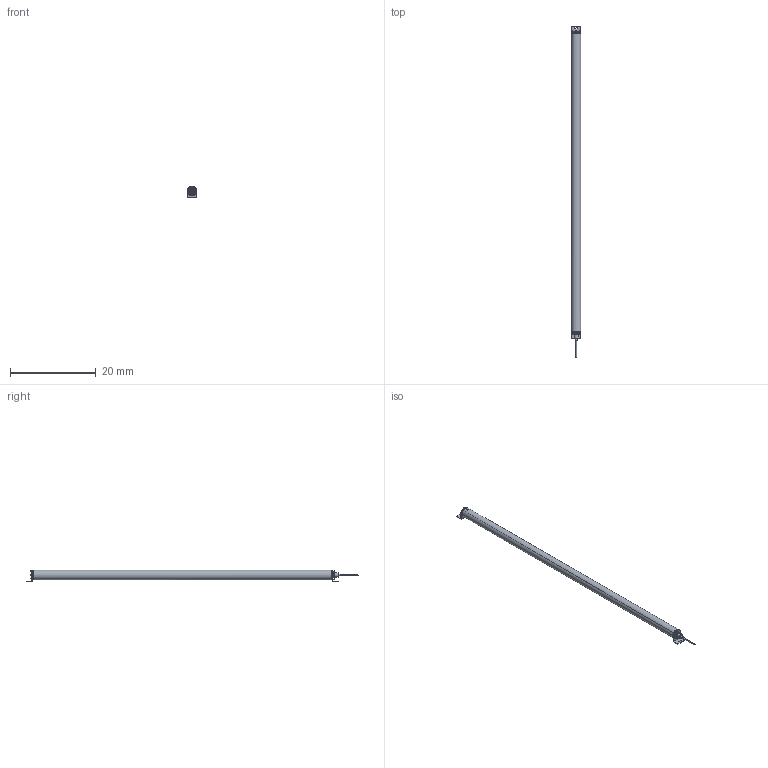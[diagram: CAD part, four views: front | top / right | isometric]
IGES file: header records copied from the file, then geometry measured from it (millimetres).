
Start section:  Autodesk DirectConnect version 7.0.27.0 ---- IGES version 5.3
Global section: file name: C:\ACADFILES\MG_PYLONS\CUSTOMER_FILES\MG-68-PYLON_3D_SMB_PT.iges; native system: Autodesk DirectConnect 7.0.27.0; preprocessor: 7.0.27.0; author: ENGINEERMAIN; organization: Unknown; date: 20150810.143239; units: millimetre
Bounding box: 2.26 x 77.44 x 2.75 mm (x, y, z)
Surface area: 2009.8 mm2 (no closed solid volume)
Topology: 0 solids, 0 shells, 784 faces, 4052 edges, 4055 vertices
Faces by surface type: bspline 784
